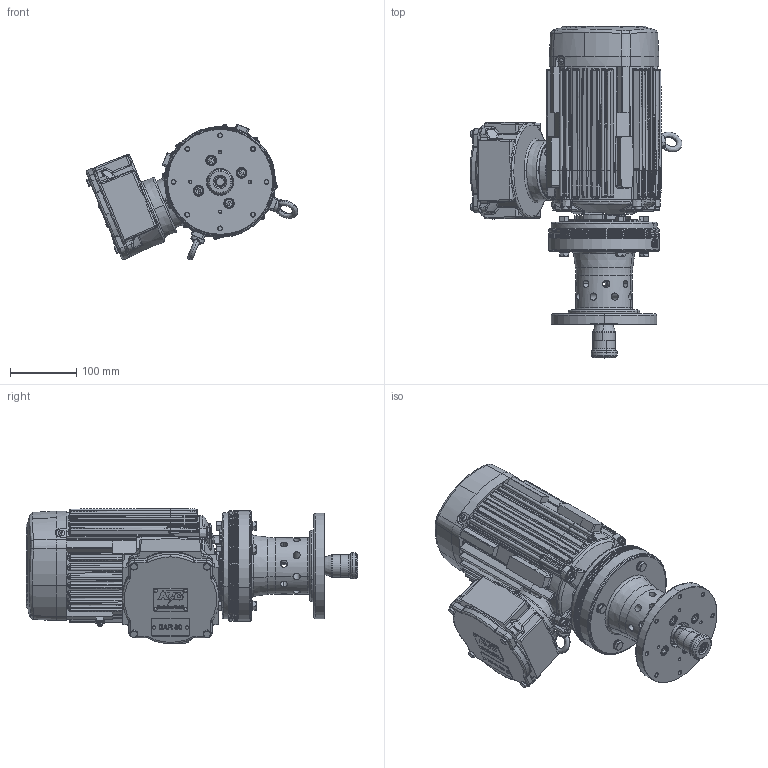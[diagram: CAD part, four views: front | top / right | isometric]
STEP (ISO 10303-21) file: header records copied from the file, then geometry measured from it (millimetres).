
FILE_DESCRIPTION (( 'STEP AP214' ), '1' );
FILE_NAME ('Elektr. Rührwerksantrieb ATEX 5Nm 0,75kW mit Schnellwechselsystem V2_6621+5614_.STEP', '2024-05-08T11:39:23', ( '' ), ( '' ), 'SwSTEP 2.0', 'SolidWorks 2022', '' );
FILE_SCHEMA (( 'AUTOMOTIVE_DESIGN' ));
Length unit declared in the file: millimetre
Products named in the file (1): Elektr. Rührwerksantrieb ATEX 5Nm 0,75kW mit Schnellwechselsystem V2_6621+5614_
Bounding box: 318.87 x 499.75 x 204.45 mm (x, y, z)
Surface area: 497329.7 mm2 (no closed solid volume)
Topology: 0 solids, 95 shells, 2102 faces, 6986 edges, 4758 vertices
Faces by surface type: bspline 762, plane 513, cylinder 394, cone 290, torus 143
Entity records: 158609 total; most frequent: CARTESIAN_POINT 84933, ORIENTED_EDGE 11140, DIRECTION 7801, EDGE_CURVE 6953, VERTEX_POINT 4758, B_SPLINE_CURVE_WITH_KNOTS 3312, AXIS2_PLACEMENT_3D 2978, EDGE_LOOP 2331
